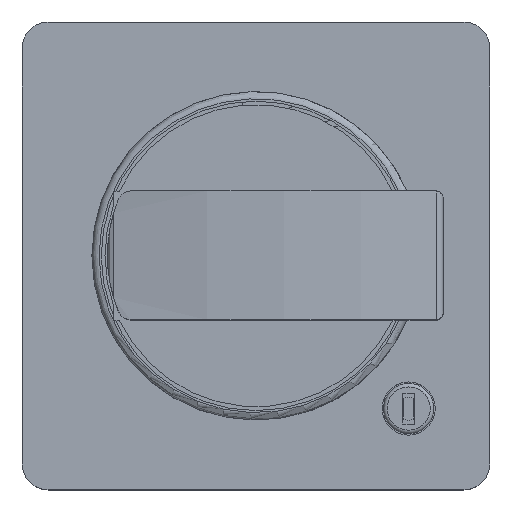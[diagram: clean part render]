
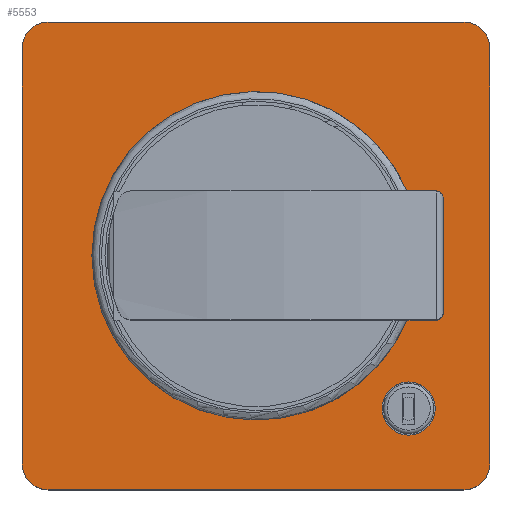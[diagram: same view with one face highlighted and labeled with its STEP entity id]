
A CAD part, top view. The second image highlights one B-rep face of the part: STEP entity #5553.
In plain terms, the highlighted planar face has unit normal (0, 0, 1).
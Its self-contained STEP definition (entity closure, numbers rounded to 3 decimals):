
#167=LINE('',#7376,#507);
#409=LINE('',#8256,#749);
#410=LINE('',#8260,#750);
#411=LINE('',#8264,#751);
#507=VECTOR('',#6146,1000.);
#749=VECTOR('',#6968,1000.);
#750=VECTOR('',#6971,1000.);
#751=VECTOR('',#6974,1000.);
#1606=ORIENTED_EDGE('',*,*,#2342,.F.);
#1607=ORIENTED_EDGE('',*,*,#2341,.T.);
#1608=ORIENTED_EDGE('',*,*,#2343,.T.);
#1609=ORIENTED_EDGE('',*,*,#2344,.T.);
#1610=ORIENTED_EDGE('',*,*,#2345,.T.);
#1611=ORIENTED_EDGE('',*,*,#2346,.T.);
#1612=ORIENTED_EDGE('',*,*,#2347,.T.);
#1613=ORIENTED_EDGE('',*,*,#2348,.T.);
#1614=ORIENTED_EDGE('',*,*,#2349,.T.);
#1615=ORIENTED_EDGE('',*,*,#1963,.T.);
#1963=EDGE_CURVE('',#2510,#2509,#167,.T.);
#2341=EDGE_CURVE('',#2782,#2782,#2973,.T.);
#2342=EDGE_CURVE('',#2783,#2783,#2974,.T.);
#2343=EDGE_CURVE('',#2509,#2784,#2975,.T.);
#2344=EDGE_CURVE('',#2784,#2785,#409,.T.);
#2345=EDGE_CURVE('',#2785,#2786,#2976,.T.);
#2346=EDGE_CURVE('',#2786,#2787,#410,.T.);
#2347=EDGE_CURVE('',#2787,#2788,#2977,.T.);
#2348=EDGE_CURVE('',#2788,#2789,#411,.T.);
#2349=EDGE_CURVE('',#2789,#2510,#2978,.T.);
#2509=VERTEX_POINT('',#7375);
#2510=VERTEX_POINT('',#7377);
#2782=VERTEX_POINT('',#8249);
#2783=VERTEX_POINT('',#8252);
#2784=VERTEX_POINT('',#8255);
#2785=VERTEX_POINT('',#8257);
#2786=VERTEX_POINT('',#8259);
#2787=VERTEX_POINT('',#8261);
#2788=VERTEX_POINT('',#8263);
#2789=VERTEX_POINT('',#8265);
#2973=CIRCLE('',#5937,21.5);
#2974=CIRCLE('',#5939,3.7);
#2975=CIRCLE('',#5941,3.6);
#2976=CIRCLE('',#5942,3.6);
#2977=CIRCLE('',#5943,3.6);
#2978=CIRCLE('',#5944,3.6);
#3246=EDGE_LOOP('',(#1606));
#3247=EDGE_LOOP('',(#1607));
#3248=EDGE_LOOP('',(#1608,#1609,#1610,#1611,#1612,#1613,#1614,#1615));
#3544=FACE_BOUND('',#3246,.T.);
#3545=FACE_BOUND('',#3247,.T.);
#3546=FACE_BOUND('',#3248,.T.);
#3723=PLANE('',#5940);
#5553=ADVANCED_FACE('',(#3544,#3545,#3546),#3723,.T.);
#5937=AXIS2_PLACEMENT_3D('',#8248,#6958,#6959);
#5939=AXIS2_PLACEMENT_3D('',#8251,#6962,#6963);
#5940=AXIS2_PLACEMENT_3D('',#8253,#6964,#6965);
#5941=AXIS2_PLACEMENT_3D('',#8254,#6966,#6967);
#5942=AXIS2_PLACEMENT_3D('',#8258,#6969,#6970);
#5943=AXIS2_PLACEMENT_3D('',#8262,#6972,#6973);
#5944=AXIS2_PLACEMENT_3D('',#8266,#6975,#6976);
#6146=DIRECTION('',(-1.,0.,0.));
#6958=DIRECTION('',(0.,0.,-1.));
#6959=DIRECTION('',(-1.,0.,0.));
#6962=DIRECTION('',(0.,0.,1.));
#6963=DIRECTION('',(1.,0.,0.));
#6964=DIRECTION('',(0.,0.,1.));
#6965=DIRECTION('',(1.,0.,0.));
#6966=DIRECTION('',(0.,0.,1.));
#6967=DIRECTION('',(1.,0.,0.));
#6968=DIRECTION('',(0.,-1.,0.));
#6969=DIRECTION('',(0.,0.,1.));
#6970=DIRECTION('',(1.,0.,0.));
#6971=DIRECTION('',(1.,0.,0.));
#6972=DIRECTION('',(0.,0.,1.));
#6973=DIRECTION('',(1.,0.,0.));
#6974=DIRECTION('',(0.,1.,0.));
#6975=DIRECTION('',(0.,0.,1.));
#6976=DIRECTION('',(1.,0.,0.));
#7375=CARTESIAN_POINT('',(-28.9,32.5,15.5));
#7376=CARTESIAN_POINT('',(28.9,32.5,15.5));
#7377=CARTESIAN_POINT('',(28.9,32.5,15.5));
#8248=CARTESIAN_POINT('',(0.,0.,15.5));
#8249=CARTESIAN_POINT('',(-21.5,0.,15.5));
#8251=CARTESIAN_POINT('',(21.21,-21.21,15.5));
#8252=CARTESIAN_POINT('',(24.91,-21.21,15.5));
#8253=CARTESIAN_POINT('',(-28.9,28.9,15.5));
#8254=CARTESIAN_POINT('',(-28.9,28.9,15.5));
#8255=CARTESIAN_POINT('',(-32.5,28.9,15.5));
#8256=CARTESIAN_POINT('',(-32.5,28.9,15.5));
#8257=CARTESIAN_POINT('',(-32.5,-28.9,15.5));
#8258=CARTESIAN_POINT('',(-28.9,-28.9,15.5));
#8259=CARTESIAN_POINT('',(-28.9,-32.5,15.5));
#8260=CARTESIAN_POINT('',(-28.9,-32.5,15.5));
#8261=CARTESIAN_POINT('',(28.9,-32.5,15.5));
#8262=CARTESIAN_POINT('',(28.9,-28.9,15.5));
#8263=CARTESIAN_POINT('',(32.5,-28.9,15.5));
#8264=CARTESIAN_POINT('',(32.5,-28.9,15.5));
#8265=CARTESIAN_POINT('',(32.5,28.9,15.5));
#8266=CARTESIAN_POINT('',(28.9,28.9,15.5));
